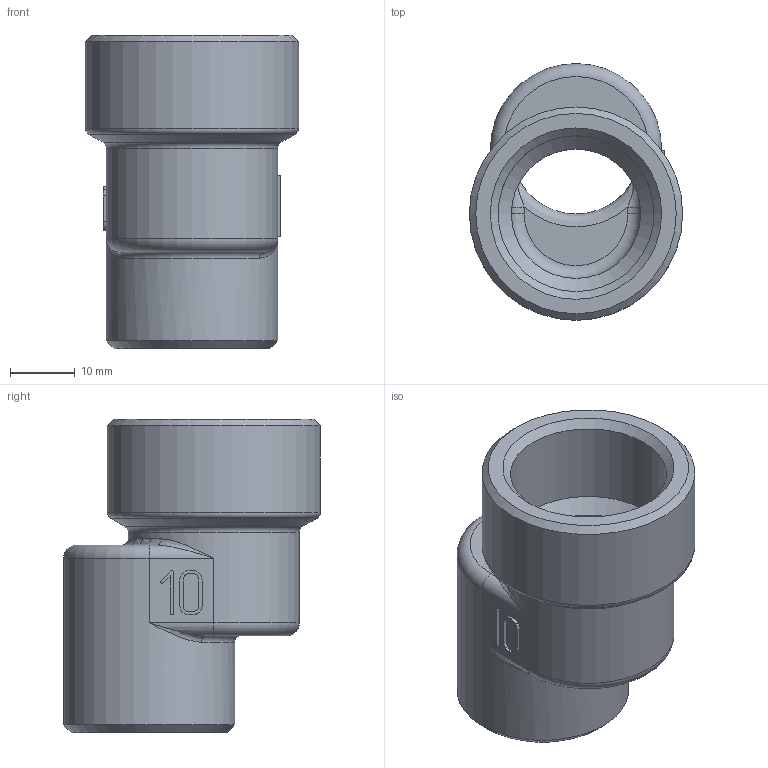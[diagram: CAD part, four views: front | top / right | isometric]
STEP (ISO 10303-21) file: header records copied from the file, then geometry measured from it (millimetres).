
FILE_DESCRIPTION(('STEP AP203'), '1');
FILE_NAME('ÂÐ.752289.010 - VTr.094.N.05010 - Ôèò. ðåçüá. ýêñö', '2024-06-21T11:52:00', ('Boss'), (''), 'C3D Converter', 'C3D Toolkit', '');
FILE_SCHEMA(('CONFIG_CONTROL_DESIGN'));
Length unit declared in the file: millimetre
Products named in the file (1): ВР.752289.010
Bounding box: 33 x 39.75 x 48.5 mm (x, y, z)
Volume: 16102.8 mm3; surface area: 9468.2 mm2
Topology: 1 solids, 1 shells, 108 faces, 272 edges, 164 vertices
Faces by surface type: plane 42, extrusion 27, cylinder 15, torus 11, bspline 8, cone 5
Full cylindrical faces by diameter (mm): 20 x2, 24.118 x1, 26.5 x2, 33 x1
Entity records: 4091 total; most frequent: CARTESIAN_POINT 1721, ORIENTED_EDGE 500, DIRECTION 393, EDGE_CURVE 250, VERTEX_POINT 164, VECTOR 157, EDGE_LOOP 130, LINE 130
